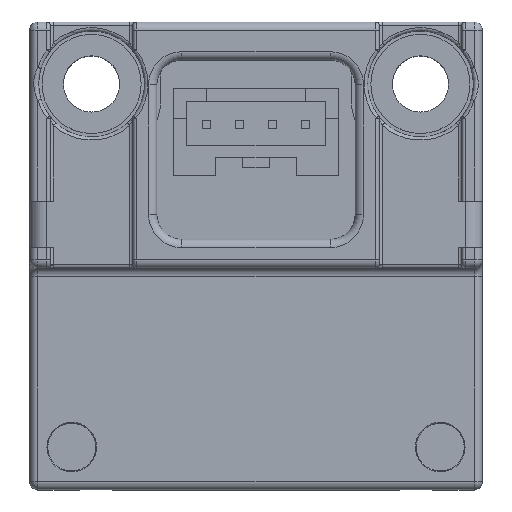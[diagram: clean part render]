
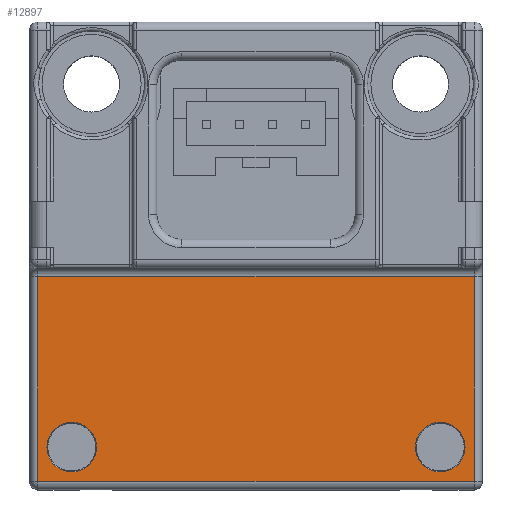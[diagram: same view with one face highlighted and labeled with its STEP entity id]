
A CAD part, top view. The second image highlights one B-rep face of the part: STEP entity #12897.
In plain terms, the highlighted planar face has unit normal (0, 0, 1) as drawn and (0, 1, 0) by its records, which use the part's own axes.
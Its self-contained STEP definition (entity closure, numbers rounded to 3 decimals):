
#7649=DIRECTION('',(-1.,0.,0.));
#7650=VECTOR('',#7649,12.4);
#7651=CARTESIAN_POINT('',(-15.4,3.05,13.2));
#7652=LINE('',#7651,#7650);
#7656=DIRECTION('',(0.,0.,-1.));
#7657=VECTOR('',#7656,26.4);
#7658=CARTESIAN_POINT('',(-27.8,3.05,13.2));
#7659=LINE('',#7658,#7657);
#7663=DIRECTION('',(1.,0.,0.));
#7664=VECTOR('',#7663,12.4);
#7665=CARTESIAN_POINT('',(-27.8,3.05,-13.2));
#7666=LINE('',#7665,#7664);
#7670=DIRECTION('',(0.,0.,1.));
#7671=VECTOR('',#7670,26.4);
#7672=CARTESIAN_POINT('',(-15.4,3.05,-13.2));
#7673=LINE('',#7672,#7671);
#7677=CARTESIAN_POINT('',(-25.725,3.05,-11.15));
#7678=DIRECTION('',(0.,1.,0.));
#7679=DIRECTION('',(1.,0.,0.));
#7680=AXIS2_PLACEMENT_3D('',#7677,#7678,#7679);
#7685=CARTESIAN_POINT('',(-25.725,3.05,-11.15));
#7686=DIRECTION('',(0.,1.,0.));
#7687=DIRECTION('',(-1.,0.,0.));
#7688=AXIS2_PLACEMENT_3D('',#7685,#7686,#7687);
#7693=CARTESIAN_POINT('',(-25.725,3.05,11.15));
#7694=DIRECTION('',(0.,-1.,0.));
#7695=DIRECTION('',(1.,0.,0.));
#7696=AXIS2_PLACEMENT_3D('',#7693,#7694,#7695);
#7701=CARTESIAN_POINT('',(-25.725,3.05,11.15));
#7702=DIRECTION('',(0.,-1.,0.));
#7703=DIRECTION('',(-1.,0.,0.));
#7704=AXIS2_PLACEMENT_3D('',#7701,#7702,#7703);
#11319=CARTESIAN_POINT('',(-15.4,3.05,-13.2));
#11320=CARTESIAN_POINT('',(-15.4,3.05,13.2));
#11321=VERTEX_POINT('',#11319);
#11322=VERTEX_POINT('',#11320);
#11343=CARTESIAN_POINT('',(-27.8,3.05,-13.2));
#11344=VERTEX_POINT('',#11343);
#11346=CARTESIAN_POINT('',(-27.8,3.05,13.2));
#11348=VERTEX_POINT('',#11346);
#11359=CARTESIAN_POINT('',(-24.225,3.05,-11.15));
#11360=CARTESIAN_POINT('',(-27.225,3.05,-11.15));
#11361=VERTEX_POINT('',#11359);
#11362=VERTEX_POINT('',#11360);
#11371=CARTESIAN_POINT('',(-24.225,3.05,11.15));
#11372=VERTEX_POINT('',#11371);
#11373=CARTESIAN_POINT('',(-27.225,3.05,11.15));
#11374=VERTEX_POINT('',#11373);
#12872=CARTESIAN_POINT('',(-14.9,3.05,-13.7));
#12873=DIRECTION('',(0.,1.,0.));
#12874=DIRECTION('',(-1.,0.,0.));
#12875=AXIS2_PLACEMENT_3D('',#12872,#12873,#12874);
#12876=PLANE('',#12875);
#12877=ORIENTED_EDGE('',*,*,#12730,.T.);
#12878=ORIENTED_EDGE('',*,*,#12864,.T.);
#12880=ORIENTED_EDGE('',*,*,#12879,.T.);
#12882=ORIENTED_EDGE('',*,*,#12881,.T.);
#12883=EDGE_LOOP('',(#12877,#12878,#12880,#12882));
#12884=FACE_OUTER_BOUND('',#12883,.F.);
#12886=ORIENTED_EDGE('',*,*,#12885,.T.);
#12888=ORIENTED_EDGE('',*,*,#12887,.T.);
#12889=EDGE_LOOP('',(#12886,#12888));
#12890=FACE_BOUND('',#12889,.F.);
#12892=ORIENTED_EDGE('',*,*,#12891,.F.);
#12894=ORIENTED_EDGE('',*,*,#12893,.F.);
#12895=EDGE_LOOP('',(#12892,#12894));
#12896=FACE_BOUND('',#12895,.F.);
#7681=CIRCLE('',#7680,1.5);
#7689=CIRCLE('',#7688,1.5);
#7697=CIRCLE('',#7696,1.5);
#7705=CIRCLE('',#7704,1.5);
#12730=EDGE_CURVE('',#11322,#11348,#7652,.T.);
#12864=EDGE_CURVE('',#11348,#11344,#7659,.T.);
#12879=EDGE_CURVE('',#11344,#11321,#7666,.T.);
#12881=EDGE_CURVE('',#11321,#11322,#7673,.T.);
#12885=EDGE_CURVE('',#11361,#11362,#7681,.T.);
#12887=EDGE_CURVE('',#11362,#11361,#7689,.T.);
#12891=EDGE_CURVE('',#11372,#11374,#7697,.T.);
#12893=EDGE_CURVE('',#11374,#11372,#7705,.T.);
#12897=ADVANCED_FACE('',(#12884,#12890,#12896),#12876,.T.);
